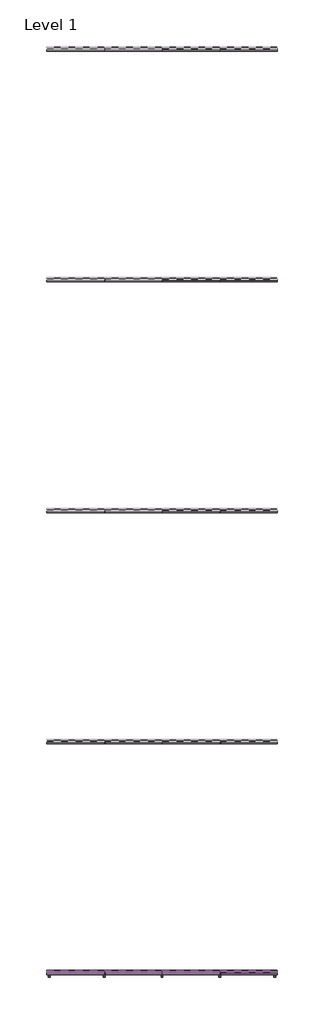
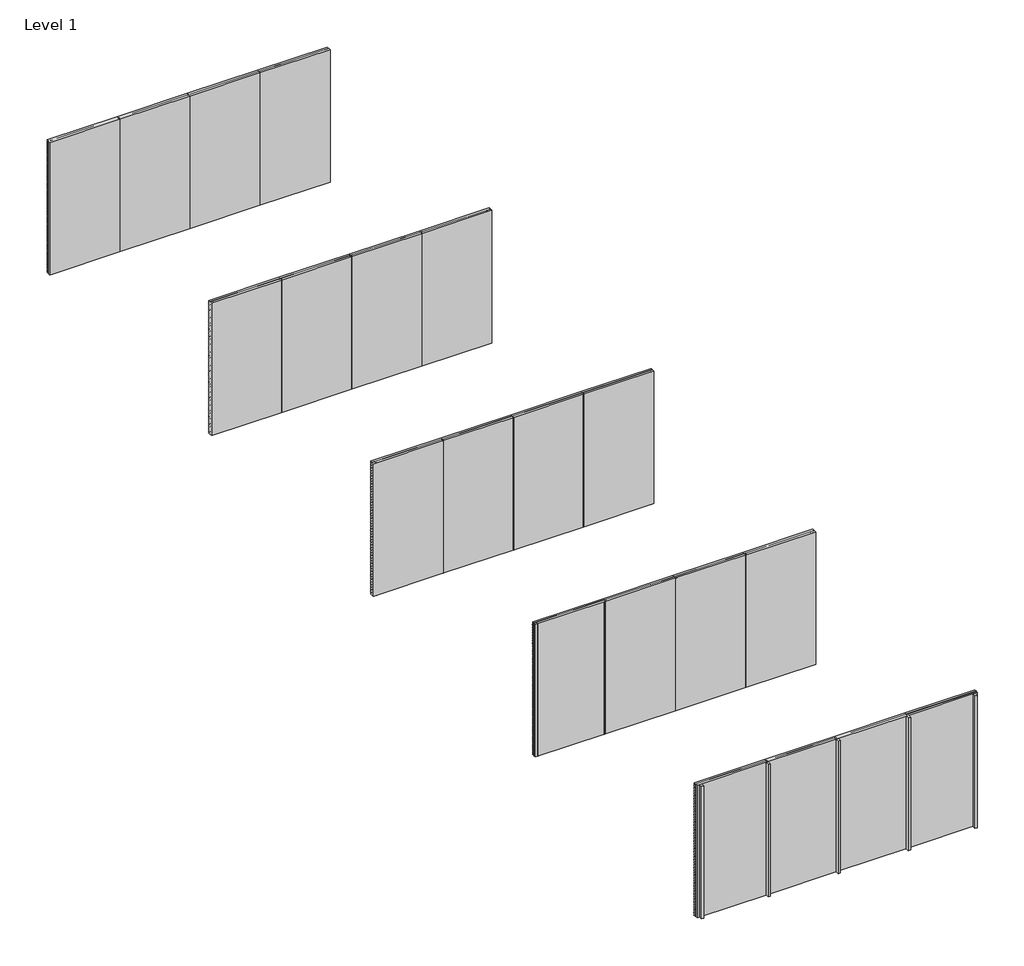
# One storey, part 1 of 3: 58 proxies, 25 members, 25 plates.
"""IFC4 building model written with IfcOpenShell, lengths in millimetres."""

from ifc_helpers import new_model, si_unit, frame, origin, origin_with_axes, place, context, project, spatial, polyline, outline, extrude, transform, mapped, element, save
from components import rectangular_mullion_07ce7cd6, rectangular_mullion_a32b29a9, rectangular_mullion_bbbcbd30, rectangular_mullion_f8d4a220, rectangular_mullion_81aaf6fe, rectangular_mullion_6e08dc26, rectangular_mullion_75c52e10, rectangular_mullion_40295cf1, rectangular_mullion_8b624eba, rectangular_mullion_7f158cb3, rectangular_mullion_66519e13, rectangular_mullion_5829b51c, rectangular_mullion_16d87653, rectangular_mullion_6cfc0fe8, rectangular_mullion_5af3f62c, empty_system_panel_empty_ae16e1e1

model = new_model("IFC4")

# Units and contexts
model_context = context("Model", 3, world=origin())
ifc_project = project(units=[si_unit("LENGTHUNIT", "METRE", prefix="MILLI")], contexts=[model_context])

# Site, building, storey
site = spatial("IfcSite", under=ifc_project)
building = spatial("IfcBuilding", under=site)
storey = spatial("IfcBuildingStorey", under=building, Name="Level 1", Elevation=0.0)

# Proxies
placement = place(None, origin())
element("IfcBuildingElementProxy", 1, Name="Wall Sweeps", at=placement, inside=storey, context=model_context, shape_type="SweptSolid", body=[
    extrude(outline(polyline([(-19995.0, 3000.0), (-19995.0, 2998.0), (-19933.0, 2929.0), (-19933.0, 2926.0), (-19997.0, 2997.2258065), (-19997.0, 3000.0), (-19995.0, 3000.0)])), frame((0.0, 0.0, 0.0), z_axis=(1.0, 0.0, 0.0), x_axis=(0.0, 1.0, 0.0)), (0.0, 0.0, 1.0), 6000.0),
])
element("IfcBuildingElementProxy", 2, Name="Wall Sweeps", at=placement, inside=storey, context=model_context, shape_type="SweptSolid", body=[
    extrude(outline(polyline([(-19995.0, 2940.0), (-19995.0, 2938.0), (-19933.0, 2869.0), (-19933.0, 2866.0), (-19997.0, 2937.2258065), (-19997.0, 2940.0), (-19995.0, 2940.0)])), frame((0.0, 0.0, 0.0), z_axis=(1.0, 0.0, 0.0), x_axis=(0.0, 1.0, 0.0)), (0.0, 0.0, 1.0), 6000.0),
])
element("IfcBuildingElementProxy", 3, Name="Wall Sweeps", at=placement, inside=storey, context=model_context, shape_type="SweptSolid", body=[
    extrude(outline(polyline([(-19995.0, 2880.0), (-19995.0, 2878.0), (-19933.0, 2809.0), (-19933.0, 2806.0), (-19997.0, 2877.2258065), (-19997.0, 2880.0), (-19995.0, 2880.0)])), frame((0.0, 0.0, 0.0), z_axis=(1.0, 0.0, 0.0), x_axis=(0.0, 1.0, 0.0)), (0.0, 0.0, 1.0), 6000.0),
])
element("IfcBuildingElementProxy", 4, Name="Wall Sweeps", at=placement, inside=storey, context=model_context, shape_type="SweptSolid", body=[
    extrude(outline(polyline([(-19995.0, 2820.0), (-19995.0, 2818.0), (-19933.0, 2749.0), (-19933.0, 2746.0), (-19997.0, 2817.2258065), (-19997.0, 2820.0), (-19995.0, 2820.0)])), frame((0.0, 0.0, 0.0), z_axis=(1.0, 0.0, 0.0), x_axis=(0.0, 1.0, 0.0)), (0.0, 0.0, 1.0), 6000.0),
])
element("IfcBuildingElementProxy", 5, Name="Wall Sweeps", at=placement, inside=storey, context=model_context, shape_type="SweptSolid", body=[
    extrude(outline(polyline([(-19995.0, 2760.0), (-19995.0, 2758.0), (-19933.0, 2689.0), (-19933.0, 2686.0), (-19997.0, 2757.2258065), (-19997.0, 2760.0), (-19995.0, 2760.0)])), frame((0.0, 0.0, 0.0), z_axis=(1.0, 0.0, 0.0), x_axis=(0.0, 1.0, 0.0)), (0.0, 0.0, 1.0), 6000.0),
])
element("IfcBuildingElementProxy", 6, Name="Wall Sweeps", at=placement, inside=storey, context=model_context, shape_type="SweptSolid", body=[
    extrude(outline(polyline([(-19995.0, 2700.0), (-19995.0, 2698.0), (-19933.0, 2629.0), (-19933.0, 2626.0), (-19997.0, 2697.2258065), (-19997.0, 2700.0), (-19995.0, 2700.0)])), frame((0.0, 0.0, 0.0), z_axis=(1.0, 0.0, 0.0), x_axis=(0.0, 1.0, 0.0)), (0.0, 0.0, 1.0), 6000.0),
])
element("IfcBuildingElementProxy", 7, Name="Wall Sweeps", at=placement, inside=storey, context=model_context, shape_type="SweptSolid", body=[
    extrude(outline(polyline([(-19995.0, 2640.0), (-19995.0, 2638.0), (-19933.0, 2569.0), (-19933.0, 2566.0), (-19997.0, 2637.2258065), (-19997.0, 2640.0), (-19995.0, 2640.0)])), frame((0.0, 0.0, 0.0), z_axis=(1.0, 0.0, 0.0), x_axis=(0.0, 1.0, 0.0)), (0.0, 0.0, 1.0), 6000.0),
])
element("IfcBuildingElementProxy", 8, Name="Wall Sweeps", at=placement, inside=storey, context=model_context, shape_type="SweptSolid", body=[
    extrude(outline(polyline([(-19995.0, 2580.0), (-19995.0, 2578.0), (-19933.0, 2509.0), (-19933.0, 2506.0), (-19997.0, 2577.2258065), (-19997.0, 2580.0), (-19995.0, 2580.0)])), frame((0.0, 0.0, 0.0), z_axis=(1.0, 0.0, 0.0), x_axis=(0.0, 1.0, 0.0)), (0.0, 0.0, 1.0), 6000.0),
])
element("IfcBuildingElementProxy", 9, Name="Wall Sweeps", at=placement, inside=storey, context=model_context, shape_type="SweptSolid", body=[
    extrude(outline(polyline([(-25995.0, 3000.0), (-25995.0, 2998.0), (-25933.0, 2929.0), (-25933.0, 2926.0), (-25997.0, 2997.2258065), (-25997.0, 3000.0), (-25995.0, 3000.0)])), frame((0.0, 0.0, 0.0), z_axis=(1.0, 0.0, 0.0), x_axis=(0.0, 1.0, 0.0)), (0.0, 0.0, 1.0), 6000.0),
])
element("IfcBuildingElementProxy", 10, Name="Wall Sweeps", at=placement, inside=storey, context=model_context, shape_type="SweptSolid", body=[
    extrude(outline(polyline([(-25995.0, 2940.0), (-25995.0, 2938.0), (-25933.0, 2869.0), (-25933.0, 2866.0), (-25997.0, 2937.2258065), (-25997.0, 2940.0), (-25995.0, 2940.0)])), frame((0.0, 0.0, 0.0), z_axis=(1.0, 0.0, 0.0), x_axis=(0.0, 1.0, 0.0)), (0.0, 0.0, 1.0), 6000.0),
])
element("IfcBuildingElementProxy", 11, Name="Wall Sweeps", at=placement, inside=storey, context=model_context, shape_type="SweptSolid", body=[
    extrude(outline(polyline([(-25995.0, 2880.0), (-25995.0, 2878.0), (-25933.0, 2809.0), (-25933.0, 2806.0), (-25997.0, 2877.2258065), (-25997.0, 2880.0), (-25995.0, 2880.0)])), frame((0.0, 0.0, 0.0), z_axis=(1.0, 0.0, 0.0), x_axis=(0.0, 1.0, 0.0)), (0.0, 0.0, 1.0), 6000.0),
])
element("IfcBuildingElementProxy", 12, Name="Wall Sweeps", at=placement, inside=storey, context=model_context, shape_type="SweptSolid", body=[
    extrude(outline(polyline([(-25995.0, 2820.0), (-25995.0, 2818.0), (-25933.0, 2749.0), (-25933.0, 2746.0), (-25997.0, 2817.2258065), (-25997.0, 2820.0), (-25995.0, 2820.0)])), frame((0.0, 0.0, 0.0), z_axis=(1.0, 0.0, 0.0), x_axis=(0.0, 1.0, 0.0)), (0.0, 0.0, 1.0), 6000.0),
])
element("IfcBuildingElementProxy", 13, Name="Wall Sweeps", at=placement, inside=storey, context=model_context, shape_type="SweptSolid", body=[
    extrude(outline(polyline([(-25995.0, 2760.0), (-25995.0, 2758.0), (-25933.0, 2689.0), (-25933.0, 2686.0), (-25997.0, 2757.2258065), (-25997.0, 2760.0), (-25995.0, 2760.0)])), frame((0.0, 0.0, 0.0), z_axis=(1.0, 0.0, 0.0), x_axis=(0.0, 1.0, 0.0)), (0.0, 0.0, 1.0), 6000.0),
])
element("IfcBuildingElementProxy", 14, Name="Wall Sweeps", at=placement, inside=storey, context=model_context, shape_type="SweptSolid", body=[
    extrude(outline(polyline([(-25995.0, 2700.0), (-25995.0, 2698.0), (-25933.0, 2629.0), (-25933.0, 2626.0), (-25997.0, 2697.2258065), (-25997.0, 2700.0), (-25995.0, 2700.0)])), frame((0.0, 0.0, 0.0), z_axis=(1.0, 0.0, 0.0), x_axis=(0.0, 1.0, 0.0)), (0.0, 0.0, 1.0), 6000.0),
])
element("IfcBuildingElementProxy", 15, Name="Wall Sweeps", at=placement, inside=storey, context=model_context, shape_type="SweptSolid", body=[
    extrude(outline(polyline([(-25995.0, 2640.0), (-25995.0, 2638.0), (-25933.0, 2569.0), (-25933.0, 2566.0), (-25997.0, 2637.2258065), (-25997.0, 2640.0), (-25995.0, 2640.0)])), frame((0.0, 0.0, 0.0), z_axis=(1.0, 0.0, 0.0), x_axis=(0.0, 1.0, 0.0)), (0.0, 0.0, 1.0), 6000.0),
])
element("IfcBuildingElementProxy", 16, Name="Wall Sweeps", at=placement, inside=storey, context=model_context, shape_type="SweptSolid", body=[
    extrude(outline(polyline([(-25995.0, 2580.0), (-25995.0, 2578.0), (-25933.0, 2509.0), (-25933.0, 2506.0), (-25997.0, 2577.2258065), (-25997.0, 2580.0), (-25995.0, 2580.0)])), frame((0.0, 0.0, 0.0), z_axis=(1.0, 0.0, 0.0), x_axis=(0.0, 1.0, 0.0)), (0.0, 0.0, 1.0), 6000.0),
])
element("IfcBuildingElementProxy", 17, Name="Wall Sweeps", at=placement, inside=storey, context=model_context, shape_type="SweptSolid", body=[
    extrude(outline(polyline([(-25995.0, 2520.0), (-25995.0, 2518.0), (-25933.0, 2449.0), (-25933.0, 2446.0), (-25997.0, 2517.2258065), (-25997.0, 2520.0), (-25995.0, 2520.0)])), frame((0.0, 0.0, 0.0), z_axis=(1.0, 0.0, 0.0), x_axis=(0.0, 1.0, 0.0)), (0.0, 0.0, 1.0), 6000.0),
])
element("IfcBuildingElementProxy", 18, Name="Wall Sweeps", at=placement, inside=storey, context=model_context, shape_type="SweptSolid", body=[
    extrude(outline(polyline([(-25995.0, 2460.0), (-25995.0, 2458.0), (-25933.0, 2389.0), (-25933.0, 2386.0), (-25997.0, 2457.2258065), (-25997.0, 2460.0), (-25995.0, 2460.0)])), frame((0.0, 0.0, 0.0), z_axis=(1.0, 0.0, 0.0), x_axis=(0.0, 1.0, 0.0)), (0.0, 0.0, 1.0), 6000.0),
])
element("IfcBuildingElementProxy", 19, Name="Wall Sweeps", at=placement, inside=storey, context=model_context, shape_type="SweptSolid", body=[
    extrude(outline(polyline([(-25995.0, 2400.0), (-25995.0, 2398.0), (-25933.0, 2329.0), (-25933.0, 2326.0), (-25997.0, 2397.2258065), (-25997.0, 2400.0), (-25995.0, 2400.0)])), frame((0.0, 0.0, 0.0), z_axis=(1.0, 0.0, 0.0), x_axis=(0.0, 1.0, 0.0)), (0.0, 0.0, 1.0), 6000.0),
])
element("IfcBuildingElementProxy", 20, Name="Wall Sweeps", at=placement, inside=storey, context=model_context, shape_type="SweptSolid", body=[
    extrude(outline(polyline([(-25995.0, 2340.0), (-25995.0, 2338.0), (-25933.0, 2269.0), (-25933.0, 2266.0), (-25997.0, 2337.2258065), (-25997.0, 2340.0), (-25995.0, 2340.0)])), frame((0.0, 0.0, 0.0), z_axis=(1.0, 0.0, 0.0), x_axis=(0.0, 1.0, 0.0)), (0.0, 0.0, 1.0), 6000.0),
])
element("IfcBuildingElementProxy", 21, Name="Wall Sweeps", at=placement, inside=storey, context=model_context, shape_type="SweptSolid", body=[
    extrude(outline(polyline([(-25995.0, 2280.0), (-25995.0, 2278.0), (-25933.0, 2209.0), (-25933.0, 2206.0), (-25997.0, 2277.2258065), (-25997.0, 2280.0), (-25995.0, 2280.0)])), frame((0.0, 0.0, 0.0), z_axis=(1.0, 0.0, 0.0), x_axis=(0.0, 1.0, 0.0)), (0.0, 0.0, 1.0), 6000.0),
])
element("IfcBuildingElementProxy", 22, Name="Wall Sweeps", at=placement, inside=storey, context=model_context, shape_type="SweptSolid", body=[
    extrude(outline(polyline([(-25995.0, 2220.0), (-25995.0, 2218.0), (-25933.0, 2149.0), (-25933.0, 2146.0), (-25997.0, 2217.2258065), (-25997.0, 2220.0), (-25995.0, 2220.0)])), frame((0.0, 0.0, 0.0), z_axis=(1.0, 0.0, 0.0), x_axis=(0.0, 1.0, 0.0)), (0.0, 0.0, 1.0), 6000.0),
])
element("IfcBuildingElementProxy", 23, Name="Wall Sweeps", at=placement, inside=storey, context=model_context, shape_type="SweptSolid", body=[
    extrude(outline(polyline([(-25995.0, 2160.0), (-25995.0, 2158.0), (-25933.0, 2089.0), (-25933.0, 2086.0), (-25997.0, 2157.2258065), (-25997.0, 2160.0), (-25995.0, 2160.0)])), frame((0.0, 0.0, 0.0), z_axis=(1.0, 0.0, 0.0), x_axis=(0.0, 1.0, 0.0)), (0.0, 0.0, 1.0), 6000.0),
])
element("IfcBuildingElementProxy", 24, Name="Wall Sweeps", at=placement, inside=storey, context=model_context, shape_type="SweptSolid", body=[
    extrude(outline(polyline([(-25995.0, 2100.0), (-25995.0, 2098.0), (-25933.0, 2029.0), (-25933.0, 2026.0), (-25997.0, 2097.2258065), (-25997.0, 2100.0), (-25995.0, 2100.0)])), frame((0.0, 0.0, 0.0), z_axis=(1.0, 0.0, 0.0), x_axis=(0.0, 1.0, 0.0)), (0.0, 0.0, 1.0), 6000.0),
])
element("IfcBuildingElementProxy", 25, Name="Wall Sweeps", at=placement, inside=storey, context=model_context, shape_type="SweptSolid", body=[
    extrude(outline(polyline([(-25995.0, 2040.0), (-25995.0, 2038.0), (-25933.0, 1969.0), (-25933.0, 1966.0), (-25997.0, 2037.2258065), (-25997.0, 2040.0), (-25995.0, 2040.0)])), frame((0.0, 0.0, 0.0), z_axis=(1.0, 0.0, 0.0), x_axis=(0.0, 1.0, 0.0)), (0.0, 0.0, 1.0), 6000.0),
])
element("IfcBuildingElementProxy", 26, Name="Wall Sweeps", at=placement, inside=storey, context=model_context, shape_type="SweptSolid", body=[
    extrude(outline(polyline([(-25995.0, 1980.0), (-25995.0, 1978.0), (-25933.0, 1909.0), (-25933.0, 1906.0), (-25997.0, 1977.2258065), (-25997.0, 1980.0), (-25995.0, 1980.0)])), frame((0.0, 0.0, 0.0), z_axis=(1.0, 0.0, 0.0), x_axis=(0.0, 1.0, 0.0)), (0.0, 0.0, 1.0), 6000.0),
])
element("IfcBuildingElementProxy", 27, Name="Wall Sweeps", at=placement, inside=storey, context=model_context, shape_type="SweptSolid", body=[
    extrude(outline(polyline([(-25995.0, 1920.0), (-25995.0, 1918.0), (-25933.0, 1849.0), (-25933.0, 1846.0), (-25997.0, 1917.2258065), (-25997.0, 1920.0), (-25995.0, 1920.0)])), frame((0.0, 0.0, 0.0), z_axis=(1.0, 0.0, 0.0), x_axis=(0.0, 1.0, 0.0)), (0.0, 0.0, 1.0), 6000.0),
])
element("IfcBuildingElementProxy", 28, Name="Wall Sweeps", at=placement, inside=storey, context=model_context, shape_type="SweptSolid", body=[
    extrude(outline(polyline([(-25995.0, 1860.0), (-25995.0, 1858.0), (-25933.0, 1789.0), (-25933.0, 1786.0), (-25997.0, 1857.2258065), (-25997.0, 1860.0), (-25995.0, 1860.0)])), frame((0.0, 0.0, 0.0), z_axis=(1.0, 0.0, 0.0), x_axis=(0.0, 1.0, 0.0)), (0.0, 0.0, 1.0), 6000.0),
])
element("IfcBuildingElementProxy", 29, Name="Wall Sweeps", at=placement, inside=storey, context=model_context, shape_type="SweptSolid", body=[
    extrude(outline(polyline([(-25995.0, 1800.0), (-25995.0, 1798.0), (-25933.0, 1729.0), (-25933.0, 1726.0), (-25997.0, 1797.2258065), (-25997.0, 1800.0), (-25995.0, 1800.0)])), frame((0.0, 0.0, 0.0), z_axis=(1.0, 0.0, 0.0), x_axis=(0.0, 1.0, 0.0)), (0.0, 0.0, 1.0), 6000.0),
])
element("IfcBuildingElementProxy", 30, Name="Wall Sweeps", at=placement, inside=storey, context=model_context, shape_type="SweptSolid", body=[
    extrude(outline(polyline([(-25995.0, 1740.0), (-25995.0, 1738.0), (-25933.0, 1669.0), (-25933.0, 1666.0), (-25997.0, 1737.2258065), (-25997.0, 1740.0), (-25995.0, 1740.0)])), frame((0.0, 0.0, 0.0), z_axis=(1.0, 0.0, 0.0), x_axis=(0.0, 1.0, 0.0)), (0.0, 0.0, 1.0), 6000.0),
])
element("IfcBuildingElementProxy", 31, Name="Wall Sweeps", at=placement, inside=storey, context=model_context, shape_type="SweptSolid", body=[
    extrude(outline(polyline([(-25995.0, 1680.0), (-25995.0, 1678.0), (-25933.0, 1609.0), (-25933.0, 1606.0), (-25997.0, 1677.2258065), (-25997.0, 1680.0), (-25995.0, 1680.0)])), frame((0.0, 0.0, 0.0), z_axis=(1.0, 0.0, 0.0), x_axis=(0.0, 1.0, 0.0)), (0.0, 0.0, 1.0), 6000.0),
])
element("IfcBuildingElementProxy", 32, Name="Wall Sweeps", at=placement, inside=storey, context=model_context, shape_type="SweptSolid", body=[
    extrude(outline(polyline([(-25995.0, 1620.0), (-25995.0, 1618.0), (-25933.0, 1549.0), (-25933.0, 1546.0), (-25997.0, 1617.2258065), (-25997.0, 1620.0), (-25995.0, 1620.0)])), frame((0.0, 0.0, 0.0), z_axis=(1.0, 0.0, 0.0), x_axis=(0.0, 1.0, 0.0)), (0.0, 0.0, 1.0), 6000.0),
])
element("IfcBuildingElementProxy", 33, Name="Wall Sweeps", at=placement, inside=storey, context=model_context, shape_type="SweptSolid", body=[
    extrude(outline(polyline([(-25995.0, 1560.0), (-25995.0, 1558.0), (-25933.0, 1489.0), (-25933.0, 1486.0), (-25997.0, 1557.2258065), (-25997.0, 1560.0), (-25995.0, 1560.0)])), frame((0.0, 0.0, 0.0), z_axis=(1.0, 0.0, 0.0), x_axis=(0.0, 1.0, 0.0)), (0.0, 0.0, 1.0), 6000.0),
])
element("IfcBuildingElementProxy", 34, Name="Wall Sweeps", at=placement, inside=storey, context=model_context, shape_type="SweptSolid", body=[
    extrude(outline(polyline([(-25995.0, 1500.0), (-25995.0, 1498.0), (-25933.0, 1429.0), (-25933.0, 1426.0), (-25997.0, 1497.2258065), (-25997.0, 1500.0), (-25995.0, 1500.0)])), frame((0.0, 0.0, 0.0), z_axis=(1.0, 0.0, 0.0), x_axis=(0.0, 1.0, 0.0)), (0.0, 0.0, 1.0), 6000.0),
])
element("IfcBuildingElementProxy", 35, Name="Wall Sweeps", at=placement, inside=storey, context=model_context, shape_type="SweptSolid", body=[
    extrude(outline(polyline([(-25995.0, 1440.0), (-25995.0, 1438.0), (-25933.0, 1369.0), (-25933.0, 1366.0), (-25997.0, 1437.2258065), (-25997.0, 1440.0), (-25995.0, 1440.0)])), frame((0.0, 0.0, 0.0), z_axis=(1.0, 0.0, 0.0), x_axis=(0.0, 1.0, 0.0)), (0.0, 0.0, 1.0), 6000.0),
])
element("IfcBuildingElementProxy", 36, Name="Wall Sweeps", at=placement, inside=storey, context=model_context, shape_type="SweptSolid", body=[
    extrude(outline(polyline([(-25995.0, 1380.0), (-25995.0, 1378.0), (-25933.0, 1309.0), (-25933.0, 1306.0), (-25997.0, 1377.2258065), (-25997.0, 1380.0), (-25995.0, 1380.0)])), frame((0.0, 0.0, 0.0), z_axis=(1.0, 0.0, 0.0), x_axis=(0.0, 1.0, 0.0)), (0.0, 0.0, 1.0), 6000.0),
])
element("IfcBuildingElementProxy", 37, Name="Wall Sweeps", at=placement, inside=storey, context=model_context, shape_type="SweptSolid", body=[
    extrude(outline(polyline([(-25995.0, 1320.0), (-25995.0, 1318.0), (-25933.0, 1249.0), (-25933.0, 1246.0), (-25997.0, 1317.2258065), (-25997.0, 1320.0), (-25995.0, 1320.0)])), frame((0.0, 0.0, 0.0), z_axis=(1.0, 0.0, 0.0), x_axis=(0.0, 1.0, 0.0)), (0.0, 0.0, 1.0), 6000.0),
])
element("IfcBuildingElementProxy", 38, Name="Wall Sweeps", at=placement, inside=storey, context=model_context, shape_type="SweptSolid", body=[
    extrude(outline(polyline([(-25995.0, 1260.0), (-25995.0, 1258.0), (-25933.0, 1189.0), (-25933.0, 1186.0), (-25997.0, 1257.2258065), (-25997.0, 1260.0), (-25995.0, 1260.0)])), frame((0.0, 0.0, 0.0), z_axis=(1.0, 0.0, 0.0), x_axis=(0.0, 1.0, 0.0)), (0.0, 0.0, 1.0), 6000.0),
])
element("IfcBuildingElementProxy", 39, Name="Wall Sweeps", at=placement, inside=storey, context=model_context, shape_type="SweptSolid", body=[
    extrude(outline(polyline([(-25995.0, 1200.0), (-25995.0, 1198.0), (-25933.0, 1129.0), (-25933.0, 1126.0), (-25997.0, 1197.2258065), (-25997.0, 1200.0), (-25995.0, 1200.0)])), frame((0.0, 0.0, 0.0), z_axis=(1.0, 0.0, 0.0), x_axis=(0.0, 1.0, 0.0)), (0.0, 0.0, 1.0), 6000.0),
])
element("IfcBuildingElementProxy", 40, Name="Wall Sweeps", at=placement, inside=storey, context=model_context, shape_type="SweptSolid", body=[
    extrude(outline(polyline([(-25995.0, 1140.0), (-25995.0, 1138.0), (-25933.0, 1069.0), (-25933.0, 1066.0), (-25997.0, 1137.2258065), (-25997.0, 1140.0), (-25995.0, 1140.0)])), frame((0.0, 0.0, 0.0), z_axis=(1.0, 0.0, 0.0), x_axis=(0.0, 1.0, 0.0)), (0.0, 0.0, 1.0), 6000.0),
])
element("IfcBuildingElementProxy", 41, Name="Wall Sweeps", at=placement, inside=storey, context=model_context, shape_type="SweptSolid", body=[
    extrude(outline(polyline([(-25995.0, 1080.0), (-25995.0, 1078.0), (-25933.0, 1009.0), (-25933.0, 1006.0), (-25997.0, 1077.2258065), (-25997.0, 1080.0), (-25995.0, 1080.0)])), frame((0.0, 0.0, 0.0), z_axis=(1.0, 0.0, 0.0), x_axis=(0.0, 1.0, 0.0)), (0.0, 0.0, 1.0), 6000.0),
])
element("IfcBuildingElementProxy", 42, Name="Wall Sweeps", at=placement, inside=storey, context=model_context, shape_type="SweptSolid", body=[
    extrude(outline(polyline([(-25995.0, 1020.0), (-25995.0, 1018.0), (-25933.0, 949.0), (-25933.0, 946.0), (-25997.0, 1017.2258065), (-25997.0, 1020.0), (-25995.0, 1020.0)])), frame((0.0, 0.0, 0.0), z_axis=(1.0, 0.0, 0.0), x_axis=(0.0, 1.0, 0.0)), (0.0, 0.0, 1.0), 6000.0),
])
element("IfcBuildingElementProxy", 43, Name="Wall Sweeps", at=placement, inside=storey, context=model_context, shape_type="SweptSolid", body=[
    extrude(outline(polyline([(-25995.0, 960.0), (-25995.0, 958.0), (-25933.0, 889.0), (-25933.0, 886.0), (-25997.0, 957.2258065), (-25997.0, 960.0), (-25995.0, 960.0)])), frame((0.0, 0.0, 0.0), z_axis=(1.0, 0.0, 0.0), x_axis=(0.0, 1.0, 0.0)), (0.0, 0.0, 1.0), 6000.0),
])
element("IfcBuildingElementProxy", 44, Name="Wall Sweeps", at=placement, inside=storey, context=model_context, shape_type="SweptSolid", body=[
    extrude(outline(polyline([(-25995.0, 900.0), (-25995.0, 898.0), (-25933.0, 829.0), (-25933.0, 826.0), (-25997.0, 897.2258065), (-25997.0, 900.0), (-25995.0, 900.0)])), frame((0.0, 0.0, 0.0), z_axis=(1.0, 0.0, 0.0), x_axis=(0.0, 1.0, 0.0)), (0.0, 0.0, 1.0), 6000.0),
])
element("IfcBuildingElementProxy", 45, Name="Wall Sweeps", at=placement, inside=storey, context=model_context, shape_type="SweptSolid", body=[
    extrude(outline(polyline([(-25995.0, 840.0), (-25995.0, 838.0), (-25933.0, 769.0), (-25933.0, 766.0), (-25997.0, 837.2258065), (-25997.0, 840.0), (-25995.0, 840.0)])), frame((0.0, 0.0, 0.0), z_axis=(1.0, 0.0, 0.0), x_axis=(0.0, 1.0, 0.0)), (0.0, 0.0, 1.0), 6000.0),
])
element("IfcBuildingElementProxy", 46, Name="Wall Sweeps", at=placement, inside=storey, context=model_context, shape_type="SweptSolid", body=[
    extrude(outline(polyline([(-25995.0, 780.0), (-25995.0, 778.0), (-25933.0, 709.0), (-25933.0, 706.0), (-25997.0, 777.2258065), (-25997.0, 780.0), (-25995.0, 780.0)])), frame((0.0, 0.0, 0.0), z_axis=(1.0, 0.0, 0.0), x_axis=(0.0, 1.0, 0.0)), (0.0, 0.0, 1.0), 6000.0),
])
element("IfcBuildingElementProxy", 47, Name="Wall Sweeps", at=placement, inside=storey, context=model_context, shape_type="SweptSolid", body=[
    extrude(outline(polyline([(-25995.0, 720.0), (-25995.0, 718.0), (-25933.0, 649.0), (-25933.0, 646.0), (-25997.0, 717.2258065), (-25997.0, 720.0), (-25995.0, 720.0)])), frame((0.0, 0.0, 0.0), z_axis=(1.0, 0.0, 0.0), x_axis=(0.0, 1.0, 0.0)), (0.0, 0.0, 1.0), 6000.0),
])
element("IfcBuildingElementProxy", 48, Name="Wall Sweeps", at=placement, inside=storey, context=model_context, shape_type="SweptSolid", body=[
    extrude(outline(polyline([(-25995.0, 660.0), (-25995.0, 658.0), (-25933.0, 589.0), (-25933.0, 586.0), (-25997.0, 657.2258065), (-25997.0, 660.0), (-25995.0, 660.0)])), frame((0.0, 0.0, 0.0), z_axis=(1.0, 0.0, 0.0), x_axis=(0.0, 1.0, 0.0)), (0.0, 0.0, 1.0), 6000.0),
])
element("IfcBuildingElementProxy", 49, Name="Wall Sweeps", at=placement, inside=storey, context=model_context, shape_type="SweptSolid", body=[
    extrude(outline(polyline([(-25995.0, 600.0), (-25995.0, 598.0), (-25933.0, 529.0), (-25933.0, 526.0), (-25997.0, 597.2258065), (-25997.0, 600.0), (-25995.0, 600.0)])), frame((0.0, 0.0, 0.0), z_axis=(1.0, 0.0, 0.0), x_axis=(0.0, 1.0, 0.0)), (0.0, 0.0, 1.0), 6000.0),
])
element("IfcBuildingElementProxy", 50, Name="Wall Sweeps", at=placement, inside=storey, context=model_context, shape_type="SweptSolid", body=[
    extrude(outline(polyline([(-25995.0, 540.0), (-25995.0, 538.0), (-25933.0, 469.0), (-25933.0, 466.0), (-25997.0, 537.2258065), (-25997.0, 540.0), (-25995.0, 540.0)])), frame((0.0, 0.0, 0.0), z_axis=(1.0, 0.0, 0.0), x_axis=(0.0, 1.0, 0.0)), (0.0, 0.0, 1.0), 6000.0),
])
element("IfcBuildingElementProxy", 51, Name="Wall Sweeps", at=placement, inside=storey, context=model_context, shape_type="SweptSolid", body=[
    extrude(outline(polyline([(-25995.0, 480.0), (-25995.0, 478.0), (-25933.0, 409.0), (-25933.0, 406.0), (-25997.0, 477.2258065), (-25997.0, 480.0), (-25995.0, 480.0)])), frame((0.0, 0.0, 0.0), z_axis=(1.0, 0.0, 0.0), x_axis=(0.0, 1.0, 0.0)), (0.0, 0.0, 1.0), 6000.0),
])
element("IfcBuildingElementProxy", 52, Name="Wall Sweeps", at=placement, inside=storey, context=model_context, shape_type="SweptSolid", body=[
    extrude(outline(polyline([(-25995.0, 420.0), (-25995.0, 418.0), (-25933.0, 349.0), (-25933.0, 346.0), (-25997.0, 417.2258065), (-25997.0, 420.0), (-25995.0, 420.0)])), frame((0.0, 0.0, 0.0), z_axis=(1.0, 0.0, 0.0), x_axis=(0.0, 1.0, 0.0)), (0.0, 0.0, 1.0), 6000.0),
])
element("IfcBuildingElementProxy", 53, Name="Wall Sweeps", at=placement, inside=storey, context=model_context, shape_type="SweptSolid", body=[
    extrude(outline(polyline([(-25995.0, 360.0), (-25995.0, 358.0), (-25933.0, 289.0), (-25933.0, 286.0), (-25997.0, 357.2258065), (-25997.0, 360.0), (-25995.0, 360.0)])), frame((0.0, 0.0, 0.0), z_axis=(1.0, 0.0, 0.0), x_axis=(0.0, 1.0, 0.0)), (0.0, 0.0, 1.0), 6000.0),
])
element("IfcBuildingElementProxy", 54, Name="Wall Sweeps", at=placement, inside=storey, context=model_context, shape_type="SweptSolid", body=[
    extrude(outline(polyline([(-25995.0, 300.0), (-25995.0, 298.0), (-25933.0, 229.0), (-25933.0, 226.0), (-25997.0, 297.2258065), (-25997.0, 300.0), (-25995.0, 300.0)])), frame((0.0, 0.0, 0.0), z_axis=(1.0, 0.0, 0.0), x_axis=(0.0, 1.0, 0.0)), (0.0, 0.0, 1.0), 6000.0),
])
element("IfcBuildingElementProxy", 55, Name="Wall Sweeps", at=placement, inside=storey, context=model_context, shape_type="SweptSolid", body=[
    extrude(outline(polyline([(-25995.0, 240.0), (-25995.0, 238.0), (-25933.0, 169.0), (-25933.0, 166.0), (-25997.0, 237.2258065), (-25997.0, 240.0), (-25995.0, 240.0)])), frame((0.0, 0.0, 0.0), z_axis=(1.0, 0.0, 0.0), x_axis=(0.0, 1.0, 0.0)), (0.0, 0.0, 1.0), 6000.0),
])
element("IfcBuildingElementProxy", 56, Name="Wall Sweeps", at=placement, inside=storey, context=model_context, shape_type="SweptSolid", body=[
    extrude(outline(polyline([(-25995.0, 180.0), (-25995.0, 178.0), (-25933.0, 109.0), (-25933.0, 106.0), (-25997.0, 177.2258065), (-25997.0, 180.0), (-25995.0, 180.0)])), frame((0.0, 0.0, 0.0), z_axis=(1.0, 0.0, 0.0), x_axis=(0.0, 1.0, 0.0)), (0.0, 0.0, 1.0), 6000.0),
])
element("IfcBuildingElementProxy", 57, Name="Wall Sweeps", at=placement, inside=storey, context=model_context, shape_type="SweptSolid", body=[
    extrude(outline(polyline([(-25995.0, 120.0), (-25995.0, 118.0), (-25933.0, 49.0), (-25933.0, 46.0), (-25997.0, 117.2258065), (-25997.0, 120.0), (-25995.0, 120.0)])), frame((0.0, 0.0, 0.0), z_axis=(1.0, 0.0, 0.0), x_axis=(0.0, 1.0, 0.0)), (0.0, 0.0, 1.0), 6000.0),
])
element("IfcBuildingElementProxy", 58, Name="Wall Sweeps", at=placement, inside=storey, context=model_context, shape_type="SweptSolid", body=[
    extrude(outline(polyline([(-25995.0, 60.0), (-25995.0, 58.0), (-25933.0, -11.0), (-25933.0, -14.0), (-25997.0, 57.2258065), (-25997.0, 60.0), (-25995.0, 60.0)])), frame((0.0, 0.0, 0.0), z_axis=(1.0, 0.0, 0.0), x_axis=(0.0, 1.0, 0.0)), (0.0, 0.0, 1.0), 6000.0),
])

# Members
rectangular_mullion_shape = rectangular_mullion_07ce7cd6(model_context)
element("IfcMember", 59, ObjectType="Rectangular Mullion : RSen_21_CWM_support profile - 30x12 - left_gen_duco projects", at=placement, inside=storey, context=model_context, shape_type="MappedRepresentation", body=[
    mapped(rectangular_mullion_shape, transform((0.0, -2000.0, 0.0), x_axis=(-1.0, 0.0, 0.0), y_axis=(0.0, 1.0, 0.0), z_axis=(0.0, 0.0, -1.0))),
])
rectangular_mullion_2_shape = rectangular_mullion_a32b29a9(model_context)
element("IfcMember", 60, ObjectType="Rectangular Mullion : RSen_21_CWM_support profile - 30x12 - right_gen_duco projects", at=placement, inside=storey, context=model_context, shape_type="MappedRepresentation", body=[
    mapped(rectangular_mullion_2_shape, transform((6000.0, -2000.0, 3000.0), x_axis=(1.0, 0.0, 0.0), y_axis=(0.0, 1.0, 0.0), z_axis=(0.0, 0.0, 1.0))),
])
rectangular_mullion_3_shape = rectangular_mullion_bbbcbd30(model_context)
element("IfcMember", 61, ObjectType="Rectangular Mullion : RSen_21_CWM_support profile - 50x12 - left_gen_duco projects", at=placement, inside=storey, context=model_context, shape_type="MappedRepresentation", body=[
    mapped(rectangular_mullion_3_shape, transform((0.0, -8000.0, 0.0), x_axis=(-1.0, 0.0, 0.0), y_axis=(0.0, 1.0, 0.0), z_axis=(0.0, 0.0, -1.0))),
])
rectangular_mullion_4_shape = rectangular_mullion_f8d4a220(model_context)
element("IfcMember", 62, ObjectType="Rectangular Mullion : RSen_21_CWM_support profile - 50x12 - right_gen_duco projects", at=placement, inside=storey, context=model_context, shape_type="MappedRepresentation", body=[
    mapped(rectangular_mullion_4_shape, transform((6000.0, -8000.0, 3000.0), x_axis=(1.0, 0.0, 0.0), y_axis=(0.0, 1.0, 0.0), z_axis=(0.0, 0.0, 1.0))),
])
rectangular_mullion_5_shape = rectangular_mullion_81aaf6fe(model_context)
element("IfcMember", 63, ObjectType="Rectangular Mullion : RSen_21_CWM_support profile - 21x50 Multi - left_gen_duco projects", at=placement, inside=storey, context=model_context, shape_type="MappedRepresentation", body=[
    mapped(rectangular_mullion_5_shape, transform((0.0, -14000.0, 0.0), x_axis=(-1.0, 0.0, 0.0), y_axis=(0.0, 1.0, 0.0), z_axis=(0.0, 0.0, -1.0))),
])
rectangular_mullion_6_shape = rectangular_mullion_6e08dc26(model_context)
element("IfcMember", 64, ObjectType="Rectangular Mullion : RSen_21_CWM_support profile - 21x50 Multi - right_gen_duco projects", at=placement, inside=storey, context=model_context, shape_type="MappedRepresentation", body=[
    mapped(rectangular_mullion_6_shape, transform((6000.0, -14000.0, 3000.0), x_axis=(1.0, 0.0, 0.0), y_axis=(0.0, 1.0, 0.0), z_axis=(0.0, 0.0, 1.0))),
])
rectangular_mullion_7_shape = rectangular_mullion_75c52e10(model_context)
element("IfcMember", 65, ObjectType="Rectangular Mullion : RSen_21_CWM_support profile - 50x50 - left_gen_duco projects", at=placement, inside=storey, context=model_context, shape_type="MappedRepresentation", body=[
    mapped(rectangular_mullion_7_shape, transform((0.0, -20000.0, 0.0), x_axis=(-1.0, 0.0, 0.0), y_axis=(0.0, 1.0, 0.0), z_axis=(0.0, 0.0, -1.0))),
])
rectangular_mullion_8_shape = rectangular_mullion_40295cf1(model_context)
element("IfcMember", 66, ObjectType="Rectangular Mullion : RSen_21_CWM_support profile - 50x50 - right_gen_duco projects", at=placement, inside=storey, context=model_context, shape_type="MappedRepresentation", body=[
    mapped(rectangular_mullion_8_shape, transform((6000.0, -20000.0, 3000.0), x_axis=(1.0, 0.0, 0.0), y_axis=(0.0, 1.0, 0.0), z_axis=(0.0, 0.0, 1.0))),
])
rectangular_mullion_9_shape = rectangular_mullion_8b624eba(model_context)
element("IfcMember", 67, ObjectType="Rectangular Mullion : RSen_21_CWM_support profile - 30x12_gen_duco projects", at=placement, inside=storey, context=model_context, shape_type="MappedRepresentation", body=[
    mapped(rectangular_mullion_9_shape, transform((4500.0, -2000.0, 0.0), x_axis=(-1.0, 0.0, 0.0), y_axis=(0.0, 1.0, 0.0), z_axis=(0.0, 0.0, -1.0))),
])
element("IfcMember", 68, ObjectType="Rectangular Mullion : RSen_21_CWM_support profile - 30x12_gen_duco projects", at=placement, inside=storey, context=model_context, shape_type="MappedRepresentation", body=[
    mapped(rectangular_mullion_9_shape, transform((3000.0, -2000.0, 0.0), x_axis=(-1.0, 0.0, 0.0), y_axis=(0.0, 1.0, 0.0), z_axis=(0.0, 0.0, -1.0))),
])
element("IfcMember", 69, ObjectType="Rectangular Mullion : RSen_21_CWM_support profile - 30x12_gen_duco projects", at=placement, inside=storey, context=model_context, shape_type="MappedRepresentation", body=[
    mapped(rectangular_mullion_9_shape, transform((1500.0, -2000.0, 0.0), x_axis=(-1.0, 0.0, 0.0), y_axis=(0.0, 1.0, 0.0), z_axis=(0.0, 0.0, -1.0))),
])
rectangular_mullion_10_shape = rectangular_mullion_7f158cb3(model_context)
element("IfcMember", 70, ObjectType="Rectangular Mullion : RSen_21_CWM_support profile - 50x12_gen_duco projects", at=placement, inside=storey, context=model_context, shape_type="MappedRepresentation", body=[
    mapped(rectangular_mullion_10_shape, transform((4500.0, -8000.0, 0.0), x_axis=(-1.0, 0.0, 0.0), y_axis=(0.0, 1.0, 0.0), z_axis=(0.0, 0.0, -1.0))),
])
element("IfcMember", 71, ObjectType="Rectangular Mullion : RSen_21_CWM_support profile - 50x12_gen_duco projects", at=placement, inside=storey, context=model_context, shape_type="MappedRepresentation", body=[
    mapped(rectangular_mullion_10_shape, transform((3000.0, -8000.0, 0.0), x_axis=(-1.0, 0.0, 0.0), y_axis=(0.0, 1.0, 0.0), z_axis=(0.0, 0.0, -1.0))),
])
element("IfcMember", 72, ObjectType="Rectangular Mullion : RSen_21_CWM_support profile - 50x12_gen_duco projects", at=placement, inside=storey, context=model_context, shape_type="MappedRepresentation", body=[
    mapped(rectangular_mullion_10_shape, transform((1500.0, -8000.0, 0.0), x_axis=(-1.0, 0.0, 0.0), y_axis=(0.0, 1.0, 0.0), z_axis=(0.0, 0.0, -1.0))),
])
rectangular_mullion_11_shape = rectangular_mullion_66519e13(model_context)
element("IfcMember", 73, ObjectType="Rectangular Mullion : RSen_21_CWM_support profile - 21x50 Multi_gen_duco projects", at=placement, inside=storey, context=model_context, shape_type="MappedRepresentation", body=[
    mapped(rectangular_mullion_11_shape, transform((4500.0, -14000.0, 0.0), x_axis=(-1.0, 0.0, 0.0), y_axis=(0.0, 1.0, 0.0), z_axis=(0.0, 0.0, -1.0))),
])
element("IfcMember", 74, ObjectType="Rectangular Mullion : RSen_21_CWM_support profile - 21x50 Multi_gen_duco projects", at=placement, inside=storey, context=model_context, shape_type="MappedRepresentation", body=[
    mapped(rectangular_mullion_11_shape, transform((3000.0, -14000.0, 0.0), x_axis=(-1.0, 0.0, 0.0), y_axis=(0.0, 1.0, 0.0), z_axis=(0.0, 0.0, -1.0))),
])
element("IfcMember", 75, ObjectType="Rectangular Mullion : RSen_21_CWM_support profile - 21x50 Multi_gen_duco projects", at=placement, inside=storey, context=model_context, shape_type="MappedRepresentation", body=[
    mapped(rectangular_mullion_11_shape, transform((1500.0, -14000.0, 0.0), x_axis=(-1.0, 0.0, 0.0), y_axis=(0.0, 1.0, 0.0), z_axis=(0.0, 0.0, -1.0))),
])
rectangular_mullion_12_shape = rectangular_mullion_5829b51c(model_context)
element("IfcMember", 76, ObjectType="Rectangular Mullion : RSen_21_CWM_support profile - 50x50_gen_duco projects", at=placement, inside=storey, context=model_context, shape_type="MappedRepresentation", body=[
    mapped(rectangular_mullion_12_shape, transform((4500.0, -20000.0, 0.0), x_axis=(-1.0, 0.0, 0.0), y_axis=(0.0, 1.0, 0.0), z_axis=(0.0, 0.0, -1.0))),
])
element("IfcMember", 77, ObjectType="Rectangular Mullion : RSen_21_CWM_support profile - 50x50_gen_duco projects", at=placement, inside=storey, context=model_context, shape_type="MappedRepresentation", body=[
    mapped(rectangular_mullion_12_shape, transform((3000.0, -20000.0, 0.0), x_axis=(-1.0, 0.0, 0.0), y_axis=(0.0, 1.0, 0.0), z_axis=(0.0, 0.0, -1.0))),
])
element("IfcMember", 78, ObjectType="Rectangular Mullion : RSen_21_CWM_support profile - 50x50_gen_duco projects", at=placement, inside=storey, context=model_context, shape_type="MappedRepresentation", body=[
    mapped(rectangular_mullion_12_shape, transform((1500.0, -20000.0, 0.0), x_axis=(-1.0, 0.0, 0.0), y_axis=(0.0, 1.0, 0.0), z_axis=(0.0, 0.0, -1.0))),
])
rectangular_mullion_13_shape = rectangular_mullion_16d87653(model_context)
element("IfcMember", 79, ObjectType="Rectangular Mullion : RSen_21_CWM_support profile - 50x125_gen_duco projects", at=placement, inside=storey, context=model_context, shape_type="MappedRepresentation", body=[
    mapped(rectangular_mullion_13_shape, transform((4500.0, -26000.0, 0.0), x_axis=(-1.0, 0.0, 0.0), y_axis=(0.0, 1.0, 0.0), z_axis=(0.0, 0.0, -1.0))),
])
element("IfcMember", 80, ObjectType="Rectangular Mullion : RSen_21_CWM_support profile - 50x125_gen_duco projects", at=placement, inside=storey, context=model_context, shape_type="MappedRepresentation", body=[
    mapped(rectangular_mullion_13_shape, transform((3000.0, -26000.0, 0.0), x_axis=(-1.0, 0.0, 0.0), y_axis=(0.0, 1.0, 0.0), z_axis=(0.0, 0.0, -1.0))),
])
element("IfcMember", 81, ObjectType="Rectangular Mullion : RSen_21_CWM_support profile - 50x125_gen_duco projects", at=placement, inside=storey, context=model_context, shape_type="MappedRepresentation", body=[
    mapped(rectangular_mullion_13_shape, transform((1500.0, -26000.0, 0.0), x_axis=(-1.0, 0.0, 0.0), y_axis=(0.0, 1.0, 0.0), z_axis=(0.0, 0.0, -1.0))),
])
rectangular_mullion_14_shape = rectangular_mullion_6cfc0fe8(model_context)
element("IfcMember", 82, ObjectType="Rectangular Mullion : RSen_21_CWM_support profile - 50x125 - left_gen_duco projects", at=placement, inside=storey, context=model_context, shape_type="MappedRepresentation", body=[
    mapped(rectangular_mullion_14_shape, transform((0.0, -26000.0, 0.0), x_axis=(-1.0, 0.0, 0.0), y_axis=(0.0, 1.0, 0.0), z_axis=(0.0, 0.0, -1.0))),
])
rectangular_mullion_15_shape = rectangular_mullion_5af3f62c(model_context)
element("IfcMember", 83, ObjectType="Rectangular Mullion : RSen_21_CWM_support profile - 50x125 - right_gen_duco projects", at=placement, inside=storey, context=model_context, shape_type="MappedRepresentation", body=[
    mapped(rectangular_mullion_15_shape, transform((6000.0, -26000.0, 3000.0), x_axis=(1.0, 0.0, 0.0), y_axis=(0.0, 1.0, 0.0), z_axis=(0.0, 0.0, 1.0))),
])

# Plates
element("IfcPlate", 84, ObjectType="RSen_21_WA_louvre blade acoustic W 75L_gen_duco projects", at=placement, inside=storey, context=model_context, shape_type="SweptSolid", body=[
    extrude(outline(polyline([(0.0, -1999.0), (6000.0, -1999.0), (6000.0, -2001.0), (0.0, -2001.0), (0.0, -1999.0)])), origin_with_axes(), (0.0, 0.0, 1.0), 3000.0),
])
element("IfcPlate", 85, ObjectType="RSen_21_WA_louvre blade acoustic W 75L_gen_duco projects", at=placement, inside=storey, context=model_context, shape_type="SweptSolid", body=[
    extrude(outline(polyline([(0.0, -7999.0), (6000.0, -7999.0), (6000.0, -8001.0), (0.0, -8001.0), (0.0, -7999.0)])), origin_with_axes(), (0.0, 0.0, 1.0), 3000.0),
])
element("IfcPlate", 86, ObjectType="RSen_21_WA_louvre blade acoustic W 75L_gen_duco projects", at=placement, inside=storey, context=model_context, shape_type="SweptSolid", body=[
    extrude(outline(polyline([(0.0, -13999.0), (6000.0, -13999.0), (6000.0, -14001.0), (0.0, -14001.0), (0.0, -13999.0)])), origin_with_axes(), (0.0, 0.0, 1.0), 3000.0),
])
element("IfcPlate", 87, ObjectType="RSen_21_WA_louvre blade acoustic W 75L_gen_duco projects", at=placement, inside=storey, context=model_context, shape_type="SweptSolid", body=[
    extrude(outline(polyline([(0.0, -19999.0), (6000.0, -19999.0), (6000.0, -20001.0), (0.0, -20001.0), (0.0, -19999.0)])), origin_with_axes(), (0.0, 0.0, 1.0), 3000.0),
])
element("IfcPlate", 88, ObjectType="RSen_21_WA_louvre blade acoustic W 75L_gen_duco projects", at=placement, inside=storey, context=model_context, shape_type="SweptSolid", body=[
    extrude(outline(polyline([(0.0, -25999.0), (6000.0, -25999.0), (6000.0, -26001.0), (0.0, -26001.0), (0.0, -25999.0)])), origin_with_axes(), (0.0, 0.0, 1.0), 3000.0),
])
empty_system_panel_empty_shape = empty_system_panel_empty_ae16e1e1(model_context)
element("IfcPlate", 89, ObjectType="Empty System Panel : Empty", at=placement, inside=storey, context=model_context, shape_type="MappedRepresentation", body=[
    mapped(empty_system_panel_empty_shape, transform((5250.0, -2000.0, 0.0), x_axis=(-1.0, 0.0, 0.0), y_axis=(0.0, -1.0, 0.0), z_axis=(0.0, 0.0, 1.0))),
])
element("IfcPlate", 90, ObjectType="Empty System Panel : Empty", at=placement, inside=storey, context=model_context, shape_type="MappedRepresentation", body=[
    mapped(empty_system_panel_empty_shape, transform((5250.0, -8000.0, 0.0), x_axis=(-1.0, 0.0, 0.0), y_axis=(0.0, -1.0, 0.0), z_axis=(0.0, 0.0, 1.0))),
])
element("IfcPlate", 91, ObjectType="Empty System Panel : Empty", at=placement, inside=storey, context=model_context, shape_type="MappedRepresentation", body=[
    mapped(empty_system_panel_empty_shape, transform((5250.0, -14000.0, 0.0), x_axis=(-1.0, 0.0, 0.0), y_axis=(0.0, -1.0, 0.0), z_axis=(0.0, 0.0, 1.0))),
])
element("IfcPlate", 92, ObjectType="Empty System Panel : Empty", at=placement, inside=storey, context=model_context, shape_type="MappedRepresentation", body=[
    mapped(empty_system_panel_empty_shape, transform((5250.0, -20000.0, 0.0), x_axis=(-1.0, 0.0, 0.0), y_axis=(0.0, -1.0, 0.0), z_axis=(0.0, 0.0, 1.0))),
])
element("IfcPlate", 93, ObjectType="Empty System Panel : Empty", at=placement, inside=storey, context=model_context, shape_type="MappedRepresentation", body=[
    mapped(empty_system_panel_empty_shape, transform((3750.0, -2000.0, 0.0), x_axis=(-1.0, 0.0, 0.0), y_axis=(0.0, -1.0, 0.0), z_axis=(0.0, 0.0, 1.0))),
])
element("IfcPlate", 94, ObjectType="Empty System Panel : Empty", at=placement, inside=storey, context=model_context, shape_type="MappedRepresentation", body=[
    mapped(empty_system_panel_empty_shape, transform((2250.0, -2000.0, 0.0), x_axis=(-1.0, 0.0, 0.0), y_axis=(0.0, -1.0, 0.0), z_axis=(0.0, 0.0, 1.0))),
])
element("IfcPlate", 95, ObjectType="Empty System Panel : Empty", at=placement, inside=storey, context=model_context, shape_type="MappedRepresentation", body=[
    mapped(empty_system_panel_empty_shape, transform((750.0, -2000.0, 0.0), x_axis=(-1.0, 0.0, 0.0), y_axis=(0.0, -1.0, 0.0), z_axis=(0.0, 0.0, 1.0))),
])
element("IfcPlate", 96, ObjectType="Empty System Panel : Empty", at=placement, inside=storey, context=model_context, shape_type="MappedRepresentation", body=[
    mapped(empty_system_panel_empty_shape, transform((3750.0, -8000.0, 0.0), x_axis=(-1.0, 0.0, 0.0), y_axis=(0.0, -1.0, 0.0), z_axis=(0.0, 0.0, 1.0))),
])
element("IfcPlate", 97, ObjectType="Empty System Panel : Empty", at=placement, inside=storey, context=model_context, shape_type="MappedRepresentation", body=[
    mapped(empty_system_panel_empty_shape, transform((2250.0, -8000.0, 0.0), x_axis=(-1.0, 0.0, 0.0), y_axis=(0.0, -1.0, 0.0), z_axis=(0.0, 0.0, 1.0))),
])
element("IfcPlate", 98, ObjectType="Empty System Panel : Empty", at=placement, inside=storey, context=model_context, shape_type="MappedRepresentation", body=[
    mapped(empty_system_panel_empty_shape, transform((750.0, -8000.0, 0.0), x_axis=(-1.0, 0.0, 0.0), y_axis=(0.0, -1.0, 0.0), z_axis=(0.0, 0.0, 1.0))),
])
element("IfcPlate", 99, ObjectType="Empty System Panel : Empty", at=placement, inside=storey, context=model_context, shape_type="MappedRepresentation", body=[
    mapped(empty_system_panel_empty_shape, transform((3750.0, -14000.0, 0.0), x_axis=(-1.0, 0.0, 0.0), y_axis=(0.0, -1.0, 0.0), z_axis=(0.0, 0.0, 1.0))),
])
element("IfcPlate", 100, ObjectType="Empty System Panel : Empty", at=placement, inside=storey, context=model_context, shape_type="MappedRepresentation", body=[
    mapped(empty_system_panel_empty_shape, transform((2250.0, -14000.0, 0.0), x_axis=(-1.0, 0.0, 0.0), y_axis=(0.0, -1.0, 0.0), z_axis=(0.0, 0.0, 1.0))),
])
element("IfcPlate", 101, ObjectType="Empty System Panel : Empty", at=placement, inside=storey, context=model_context, shape_type="MappedRepresentation", body=[
    mapped(empty_system_panel_empty_shape, transform((750.0, -14000.0, 0.0), x_axis=(-1.0, 0.0, 0.0), y_axis=(0.0, -1.0, 0.0), z_axis=(0.0, 0.0, 1.0))),
])
element("IfcPlate", 102, ObjectType="Empty System Panel : Empty", at=placement, inside=storey, context=model_context, shape_type="MappedRepresentation", body=[
    mapped(empty_system_panel_empty_shape, transform((3750.0, -20000.0, 0.0), x_axis=(-1.0, 0.0, 0.0), y_axis=(0.0, -1.0, 0.0), z_axis=(0.0, 0.0, 1.0))),
])
element("IfcPlate", 103, ObjectType="Empty System Panel : Empty", at=placement, inside=storey, context=model_context, shape_type="MappedRepresentation", body=[
    mapped(empty_system_panel_empty_shape, transform((2250.0, -20000.0, 0.0), x_axis=(-1.0, 0.0, 0.0), y_axis=(0.0, -1.0, 0.0), z_axis=(0.0, 0.0, 1.0))),
])
element("IfcPlate", 104, ObjectType="Empty System Panel : Empty", at=placement, inside=storey, context=model_context, shape_type="MappedRepresentation", body=[
    mapped(empty_system_panel_empty_shape, transform((750.0, -20000.0, 0.0), x_axis=(-1.0, 0.0, 0.0), y_axis=(0.0, -1.0, 0.0), z_axis=(0.0, 0.0, 1.0))),
])
element("IfcPlate", 105, ObjectType="Empty System Panel : Empty", at=placement, inside=storey, context=model_context, shape_type="MappedRepresentation", body=[
    mapped(empty_system_panel_empty_shape, transform((5250.0, -26000.0, 0.0), x_axis=(-1.0, 0.0, 0.0), y_axis=(0.0, -1.0, 0.0), z_axis=(0.0, 0.0, 1.0))),
])
element("IfcPlate", 106, ObjectType="Empty System Panel : Empty", at=placement, inside=storey, context=model_context, shape_type="MappedRepresentation", body=[
    mapped(empty_system_panel_empty_shape, transform((3750.0, -26000.0, 0.0), x_axis=(-1.0, 0.0, 0.0), y_axis=(0.0, -1.0, 0.0), z_axis=(0.0, 0.0, 1.0))),
])
element("IfcPlate", 107, ObjectType="Empty System Panel : Empty", at=placement, inside=storey, context=model_context, shape_type="MappedRepresentation", body=[
    mapped(empty_system_panel_empty_shape, transform((2250.0, -26000.0, 0.0), x_axis=(-1.0, 0.0, 0.0), y_axis=(0.0, -1.0, 0.0), z_axis=(0.0, 0.0, 1.0))),
])
element("IfcPlate", 108, ObjectType="Empty System Panel : Empty", at=placement, inside=storey, context=model_context, shape_type="MappedRepresentation", body=[
    mapped(empty_system_panel_empty_shape, transform((750.0, -26000.0, 0.0), x_axis=(-1.0, 0.0, 0.0), y_axis=(0.0, -1.0, 0.0), z_axis=(0.0, 0.0, 1.0))),
])

save(model, "model.ifc")
